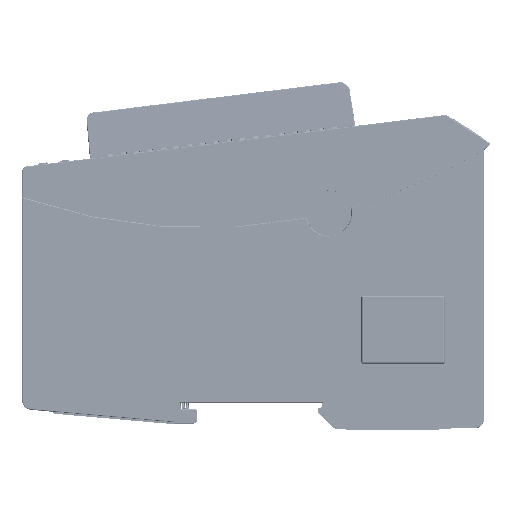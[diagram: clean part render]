
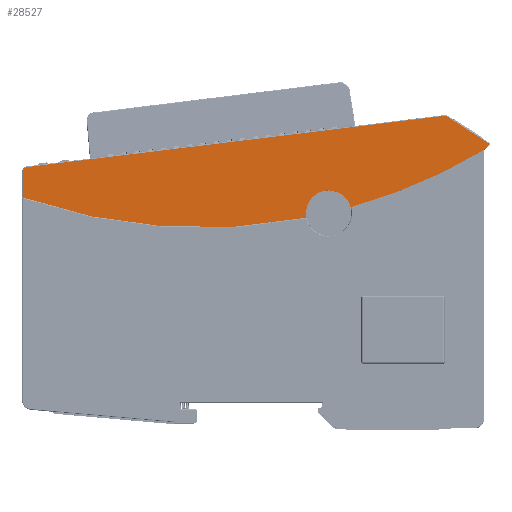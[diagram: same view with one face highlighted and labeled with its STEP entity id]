
A CAD part, top view. The second image highlights one B-rep face of the part: STEP entity #28527.
In plain terms, the highlighted planar face has unit normal (0, 0, 1).
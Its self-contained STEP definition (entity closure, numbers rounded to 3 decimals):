
#15815=AXIS2_PLACEMENT_3D('Circle Axis2P3D',#15813,#15814,$) ;
#15846=AXIS2_PLACEMENT_3D('Circle Axis2P3D',#15844,#15845,$) ;
#23607=AXIS2_PLACEMENT_3D('Circle Axis2P3D',#23605,#23606,$) ;
#23614=AXIS2_PLACEMENT_3D('Circle Axis2P3D',#23612,#23613,$) ;
#23642=AXIS2_PLACEMENT_3D('Circle Axis2P3D',#23640,#23641,$) ;
#23760=AXIS2_PLACEMENT_3D('Circle Axis2P3D',#23758,#23759,$) ;
#28488=AXIS2_PLACEMENT_3D('Plane Axis2P3D',#28485,#28486,#28487) ;
#28492=AXIS2_PLACEMENT_3D('Circle Axis2P3D',#28490,#28491,$) ;
#28501=AXIS2_PLACEMENT_3D('Circle Axis2P3D',#28499,#28500,$) ;
#28506=AXIS2_PLACEMENT_3D('Circle Axis2P3D',#28504,#28505,$) ;
#12368=CARTESIAN_POINT('Vertex',(109.966,75.982,23.3)) ;
#12382=CARTESIAN_POINT('Vertex',(-0.175,62.458,23.3)) ;
#12385=CARTESIAN_POINT('Line Origine',(60.282,69.882,23.3)) ;
#15810=CARTESIAN_POINT('Vertex',(-1.317,61.168,23.3)) ;
#15813=CARTESIAN_POINT('Axis2P3D Location',(-0.017,61.168,23.3)) ;
#15834=CARTESIAN_POINT('Vertex',(110.832,75.782,23.3)) ;
#15844=CARTESIAN_POINT('Axis2P3D Location',(110.124,74.692,23.3)) ;
#18716=CARTESIAN_POINT('Vertex',(73.414,49.055,23.3)) ;
#18725=CARTESIAN_POINT('Vertex',(73.647,48.905,23.3)) ;
#18729=CARTESIAN_POINT('Control Point',(73.414,49.055,23.3)) ;
#18730=CARTESIAN_POINT('Control Point',(73.489,49.069,23.3)) ;
#18731=CARTESIAN_POINT('Control Point',(73.573,49.045,23.3)) ;
#18732=CARTESIAN_POINT('Control Point',(73.629,48.979,23.3)) ;
#18733=CARTESIAN_POINT('Control Point',(73.647,48.905,23.3)) ;
#19329=CARTESIAN_POINT('Line Origine',(123.589,67.498,23.3)) ;
#19333=CARTESIAN_POINT('Vertex',(121.714,68.715,23.3)) ;
#23602=CARTESIAN_POINT('Vertex',(85.302,51.758,23.3)) ;
#23605=CARTESIAN_POINT('Axis2P3D Location',(79.483,50.295,23.3)) ;
#23609=CARTESIAN_POINT('Vertex',(85.278,51.853,23.3)) ;
#23612=CARTESIAN_POINT('Axis2P3D Location',(79.483,50.295,23.3)) ;
#23616=CARTESIAN_POINT('Vertex',(73.483,50.295,23.3)) ;
#23640=CARTESIAN_POINT('Axis2P3D Location',(79.483,50.295,23.3)) ;
#23731=CARTESIAN_POINT('Vertex',(-1.317,54.426,23.3)) ;
#23758=CARTESIAN_POINT('Axis2P3D Location',(46.091,191.457,23.3)) ;
#24307=CARTESIAN_POINT('Line Origine',(-1.317,34.161,23.3)) ;
#24390=CARTESIAN_POINT('Control Point',(85.302,51.758,23.3)) ;
#24391=CARTESIAN_POINT('Control Point',(85.293,51.796,23.3)) ;
#24392=CARTESIAN_POINT('Control Point',(85.303,51.839,23.3)) ;
#24393=CARTESIAN_POINT('Control Point',(85.335,51.869,23.3)) ;
#24394=CARTESIAN_POINT('Control Point',(85.372,51.879,23.3)) ;
#24395=CARTESIAN_POINT('Vertex',(85.372,51.879,23.3)) ;
#28256=CARTESIAN_POINT('Line Origine',(123.536,60.143,23.3)) ;
#28260=CARTESIAN_POINT('Vertex',(121.799,68.315,23.3)) ;
#28384=CARTESIAN_POINT('Vertex',(120.483,67.129,23.3)) ;
#28392=CARTESIAN_POINT('Line Origine',(113.925,61.224,23.3)) ;
#28485=CARTESIAN_POINT('Axis2P3D Location',(-1.517,-1.705,23.3)) ;
#28490=CARTESIAN_POINT('Axis2P3D Location',(120.383,66.819,23.3)) ;
#28494=CARTESIAN_POINT('Vertex',(120.384,66.919,23.3)) ;
#28496=CARTESIAN_POINT('Vertex',(120.332,66.905,23.3)) ;
#28499=CARTESIAN_POINT('Axis2P3D Location',(120.683,66.906,23.3)) ;
#28504=CARTESIAN_POINT('Axis2P3D Location',(46.091,191.457,23.3)) ;
#12386=DIRECTION('Vector Direction',(-0.993,-0.122,0.)) ;
#15814=DIRECTION('Axis2P3D Direction',(0.,-0.,1.)) ;
#15845=DIRECTION('Axis2P3D Direction',(-0.,0.,1.)) ;
#19330=DIRECTION('Vector Direction',(0.839,-0.545,0.)) ;
#23606=DIRECTION('Axis2P3D Direction',(0.,0.,1.)) ;
#23613=DIRECTION('Axis2P3D Direction',(0.,0.,1.)) ;
#23641=DIRECTION('Axis2P3D Direction',(0.,0.,1.)) ;
#23759=DIRECTION('Axis2P3D Direction',(0.,-0.,1.)) ;
#24308=DIRECTION('Vector Direction',(0.,1.,0.)) ;
#28257=DIRECTION('Vector Direction',(-0.208,0.978,0.)) ;
#28393=DIRECTION('Vector Direction',(0.743,0.669,0.)) ;
#28486=DIRECTION('Axis2P3D Direction',(0.,0.,1.)) ;
#28487=DIRECTION('Axis2P3D XDirection',(1.,0.,0.)) ;
#28491=DIRECTION('Axis2P3D Direction',(0.,0.,1.)) ;
#28500=DIRECTION('Axis2P3D Direction',(0.,0.,1.)) ;
#28505=DIRECTION('Axis2P3D Direction',(0.,0.,1.)) ;
#12387=VECTOR('Line Direction',#12386,1.) ;
#19331=VECTOR('Line Direction',#19330,1.) ;
#24309=VECTOR('Line Direction',#24308,1.) ;
#28258=VECTOR('Line Direction',#28257,1.) ;
#28394=VECTOR('Line Direction',#28393,1.) ;
#28510=ORIENTED_EDGE('',*,*,#28498,.F.) ;
#28511=ORIENTED_EDGE('',*,*,#28503,.T.) ;
#28512=ORIENTED_EDGE('',*,*,#28396,.T.) ;
#28513=ORIENTED_EDGE('',*,*,#28262,.F.) ;
#28514=ORIENTED_EDGE('',*,*,#19335,.T.) ;
#28515=ORIENTED_EDGE('',*,*,#15848,.T.) ;
#28516=ORIENTED_EDGE('',*,*,#12389,.T.) ;
#28517=ORIENTED_EDGE('',*,*,#15817,.T.) ;
#28518=ORIENTED_EDGE('',*,*,#24311,.T.) ;
#28519=ORIENTED_EDGE('',*,*,#23762,.T.) ;
#28520=ORIENTED_EDGE('',*,*,#18734,.F.) ;
#28521=ORIENTED_EDGE('',*,*,#23644,.F.) ;
#28522=ORIENTED_EDGE('',*,*,#23618,.F.) ;
#28523=ORIENTED_EDGE('',*,*,#23611,.T.) ;
#28524=ORIENTED_EDGE('',*,*,#24397,.F.) ;
#28525=ORIENTED_EDGE('',*,*,#28508,.T.) ;
#28527=ADVANCED_FACE('K\X2\00F6\X0\rper.2',(#28526),#28489,.T.) ;
#18728=B_SPLINE_CURVE_WITH_KNOTS('',4,(#18729,#18730,#18731,#18732,#18733),.UNSPECIFIED.,.F.,.U.,(5,5),(0.,0.431),.UNSPECIFIED.) ;
#24389=B_SPLINE_CURVE_WITH_KNOTS('',4,(#24390,#24391,#24392,#24393,#24394),.UNSPECIFIED.,.F.,.U.,(5,5),(0.,0.183),.UNSPECIFIED.) ;
#15816=CIRCLE('generated circle',#15815,1.3) ;
#15847=CIRCLE('generated circle',#15846,1.3) ;
#23608=CIRCLE('generated circle',#23607,6.) ;
#23615=CIRCLE('generated circle',#23614,6.) ;
#23643=CIRCLE('generated circle',#23642,6.) ;
#23761=CIRCLE('generated circle',#23760,145.) ;
#28493=CIRCLE('generated circle',#28492,0.1) ;
#28502=CIRCLE('generated circle',#28501,0.3) ;
#28507=CIRCLE('generated circle',#28506,145.) ;
#12389=EDGE_CURVE('',#12369,#12383,#12388,.T.) ;
#15817=EDGE_CURVE('',#12383,#15811,#15816,.T.) ;
#15848=EDGE_CURVE('',#15835,#12369,#15847,.T.) ;
#18734=EDGE_CURVE('',#18726,#18717,#18728,.F.) ;
#19335=EDGE_CURVE('',#19334,#15835,#19332,.F.) ;
#23611=EDGE_CURVE('',#23610,#23603,#23608,.F.) ;
#23618=EDGE_CURVE('',#23610,#23617,#23615,.T.) ;
#23644=EDGE_CURVE('',#23617,#18726,#23643,.T.) ;
#23762=EDGE_CURVE('',#23732,#18717,#23761,.T.) ;
#24311=EDGE_CURVE('',#15811,#23732,#24310,.F.) ;
#24397=EDGE_CURVE('',#24396,#23603,#24389,.F.) ;
#28262=EDGE_CURVE('',#19334,#28261,#28259,.F.) ;
#28396=EDGE_CURVE('',#28385,#28261,#28395,.T.) ;
#28498=EDGE_CURVE('',#28495,#28497,#28493,.T.) ;
#28503=EDGE_CURVE('',#28495,#28385,#28502,.F.) ;
#28508=EDGE_CURVE('',#24396,#28497,#28507,.T.) ;
#28509=EDGE_LOOP('',(#28510,#28511,#28512,#28513,#28514,#28515,#28516,#28517,#28518,#28519,#28520,#28521,#28522,#28523,#28524,#28525)) ;
#28526=FACE_OUTER_BOUND('',#28509,.T.) ;
#12388=LINE('Line',#12385,#12387) ;
#19332=LINE('Line',#19329,#19331) ;
#24310=LINE('Line',#24307,#24309) ;
#28259=LINE('Line',#28256,#28258) ;
#28395=LINE('Line',#28392,#28394) ;
#28489=PLANE('',#28488) ;
#12369=VERTEX_POINT('',#12368) ;
#12383=VERTEX_POINT('',#12382) ;
#15811=VERTEX_POINT('',#15810) ;
#15835=VERTEX_POINT('',#15834) ;
#18717=VERTEX_POINT('',#18716) ;
#18726=VERTEX_POINT('',#18725) ;
#19334=VERTEX_POINT('',#19333) ;
#23603=VERTEX_POINT('',#23602) ;
#23610=VERTEX_POINT('',#23609) ;
#23617=VERTEX_POINT('',#23616) ;
#23732=VERTEX_POINT('',#23731) ;
#24396=VERTEX_POINT('',#24395) ;
#28261=VERTEX_POINT('',#28260) ;
#28385=VERTEX_POINT('',#28384) ;
#28495=VERTEX_POINT('',#28494) ;
#28497=VERTEX_POINT('',#28496) ;
